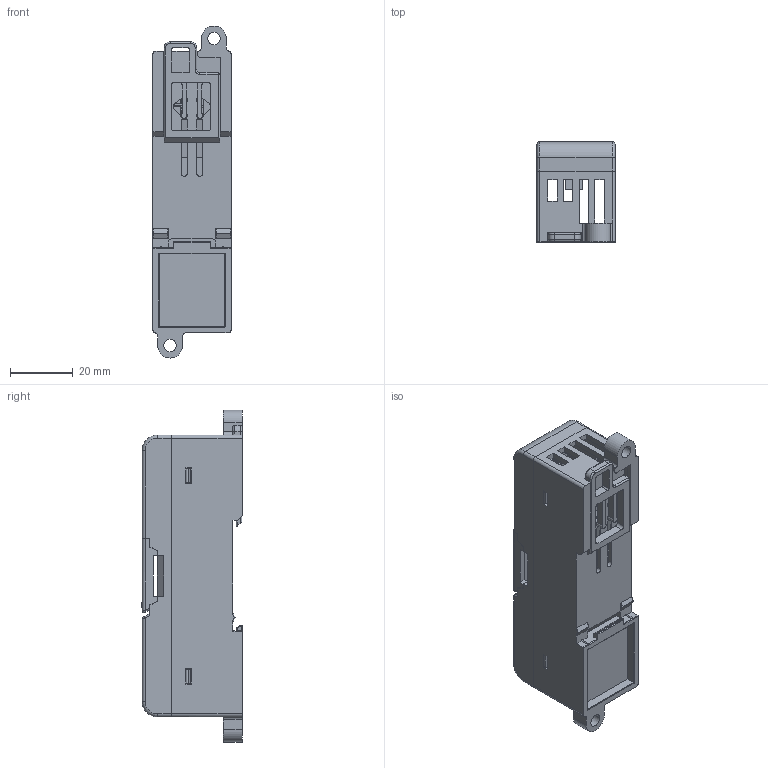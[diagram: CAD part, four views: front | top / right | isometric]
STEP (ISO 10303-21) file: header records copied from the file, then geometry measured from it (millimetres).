
FILE_DESCRIPTION((''),'2;1');
FILE_NAME('B1-CM_ASM','2021-06-09T',('Jacky Chang'),('ME Department of NTUST'),'PRO/ENGINEER BY PARAMETRIC TECHNOLOGY CORPORATION, 2014200','PRO/ENGINEER BY PARAMETRIC TECHNOLOGY CORPORATION, 2014200','');
FILE_SCHEMA(('CONFIG_CONTROL_DESIGN','GEOMETRIC_VALIDATION_PROPERTIES_MIM'));
Length unit declared in the file: millimetre
Products named in the file (8): B1-AD_UP_COVER; B1-AD_IO_COVER; DINKLE_ECH350R-05P; CONNECTOR-10P; B1-CM_DOWN_COVER_NEW; DIN-RAIL-NEW; B1-CM_DOWN_COVER_NEW_ASM; B1-CM_ASM
Assembly tree (8 placements, depth 3):
  B1-CM_ASM
    B1-AD_UP_COVER
    B1-AD_IO_COVER
    DINKLE_ECH350R-05P  x2
    CONNECTOR-10P
    B1-CM_DOWN_COVER_NEW_ASM
      B1-CM_DOWN_COVER_NEW
      DIN-RAIL-NEW
Bounding box: 25 x 32.1 x 106 mm (x, y, z)
Volume: 22430.5 mm3; surface area: 30848 mm2
Topology: 7 solids, 7 shells, 1661 faces, 4664 edges, 3024 vertices
Faces by surface type: plane 1258, cylinder 315, torus 44, cone 20, sphere 16, bspline 8
Entity records: 47277 total; most frequent: CARTESIAN_POINT 7879, ORIENTED_EDGE 6864, DIRECTION 6247, EDGE_CURVE 3432, VECTOR 2775, LINE 2775, PRESENTATION_STYLE_ASSIGNMENT 2255, VERTEX_POINT 2221
